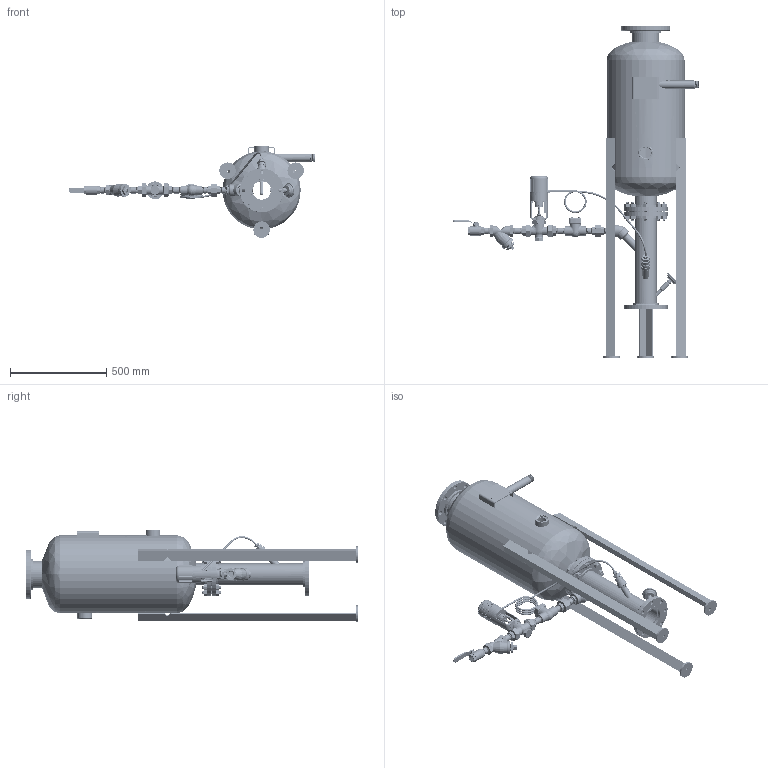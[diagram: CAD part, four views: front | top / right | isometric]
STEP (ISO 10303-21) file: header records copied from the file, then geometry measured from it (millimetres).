
FILE_DESCRIPTION(/* description */ (''),/* implementation_level */ '2;1');
FILE_NAME(/* name */ 'P:\TONY FISCHER\SBDS PRODUCT LINE\01_R&D ASSEMBLIES\1638-12554RD\SBDS-1638-12554-AC_01-26-19.stp',/* time_stamp */ '2019-01-26T09:32:46-06:00',/* author */ ('Afischer'),/* organization */ (''),/* preprocessor_version */ 'ST-DEVELOPER v17',/* originating_system */ 'Autodesk Inventor 2019',/* authorisation */ '');
FILE_SCHEMA (('AUTOMOTIVE_DESIGN { 1 0 10303 214 3 1 1 }'));
Products named in the file (37): SBDS-1638-12554-AC; 634-250-125_C; 634-250-125_A; 908-006-126; 908-028-010; 910-053-030; 006-050-003; 908-039-006; 910-053-030_1; 006-040-001; 760-800-001; 004-003-009; 634-000-001; 635-150-125_B; 006-040-001_1; 908-039-005; 908-006-106; 908-006-212; 908-006-100; 904-004-140; 904-004-717; 904-004-717N; 636-150-100_H; 908-024-007; 908-035-016; 908-014-006; 905-026-313; 905-078-521; 908-006-004; 905-045-000; 908-027-004; 908-006-003; 905-055-012; 908-032-001; 908-033-011; 902-002-646; PROBE_1630-12544_A
Assembly tree (68 placements, depth 3):
  SBDS-1638-12554-AC
    634-250-125_C
      634-250-125_A
      908-006-126
      908-028-010  x2
      910-053-030
      006-050-003
      908-039-006
      910-053-030_1
      006-040-001
      908-039-005
      760-800-001
      004-003-009  x3
      634-000-001  x3
    635-150-125_B
      006-040-001_1
      908-039-005  x2
      908-006-106
      908-006-212
      908-006-100
      904-004-140
      904-004-717  x8
      904-004-717N  x16
    636-150-100_H
      908-024-007
      908-035-016
      908-006-003  x3
      908-014-006
      905-026-313
      908-006-004  x2
      905-078-521
      905-045-000
      908-027-004
      905-055-012
      908-032-001
      908-033-011
      902-002-646
      PROBE_1630-12544_A
Bounding box: 1283.66 x 1727.2 x 477.7 mm (x, y, z)
Volume: 18577609.9 mm3; surface area: 4988916.9 mm2
Topology: 82 solids, 82 shells, 3999 faces, 10866 edges, 7104 vertices
Faces by surface type: cylinder 1602, cone 1091, plane 871, bspline 350, torus 67, sphere 18
Full cylindrical faces by diameter (mm): 6.35 x9, 6.426 x1, 6.731 x4, 7.544 x1, 9.246 x1, 9.525 x4, 11.691 x13, 12.468 x14, 12.519 x2, 12.875 x400, 13.097 x4, 13.868 x1, 15.875 x428, 16.51 x1, 17.526 x1, 18.135 x1, 19.05 x27, 20.574 x1, 21.336 x2, 22.225 x8, 23.026 x1, 24.308 x6, 24.987 x1, 24.994 x1, 25.4 x2, 26.67 x1, 27.432 x1, 28.575 x1, 28.974 x2, 29.008 x1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
Entity records: 345371 total; most frequent: CARTESIAN_POINT 281815, ORIENTED_EDGE 13574, DIRECTION 11645, EDGE_CURVE 6787, AXIS2_PLACEMENT_3D 4683, VERTEX_POINT 4442, EDGE_LOOP 2732, FACE_OUTER_BOUND 2525
